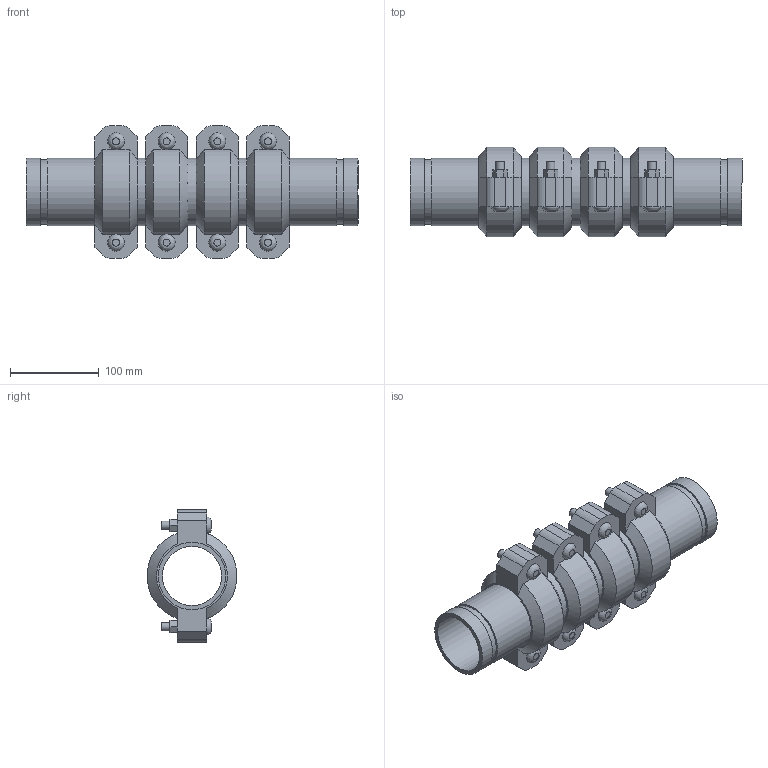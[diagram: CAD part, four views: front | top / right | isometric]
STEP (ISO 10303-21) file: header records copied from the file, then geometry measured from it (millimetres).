
FILE_DESCRIPTION(/* description */ ('VIC EXPANSION JOINT 4 COUPLINGS COMPRESSED STYLE 155 (OGS)','CAx-IF Rec.Pracs.---Representation and Presentation of Product Manufacturing Information (PMI)---4.0---2014-10-13'),/* implementation_level */ '2;1');
FILE_NAME(/* name */ 'C:\Users\kkamble\AppData\Roaming\Autodesk\ApplicationPlugins\Victaulic.Temp\A318\Victaulic_IPS_Expansion Joint_Compressed_4 Couplings_Style 155 (OGS)_02.5 (76.1) (65).stp',/* time_stamp */ '2021-06-27T00:27:26+02:00',/* author */ ('kkamble'),/* organization */ ('Victaulic'),/* preprocessor_version */ 'ST-DEVELOPER v17.2',/* originating_system */ 'Autodesk Inventor 2019',/* authorisation */ '');
FILE_SCHEMA (('AP242_MANAGED_MODEL_BASED_3D_ENGINEERING_MIM_LF { 1 0 10303 442 1 1 4 }'));
Length unit declared in the file: inch
Products named in the file (4): 155-02.5 (76.1); Nipple-02.5 (76.1); Nipple-02.5 (76.1)_1; 075-02.5 (76.1)
Assembly tree (9 placements, depth 2):
  155-02.5 (76.1)
    Nipple-02.5 (76.1)  x2
    Nipple-02.5 (76.1)_1  x3
    075-02.5 (76.1)  x4
Bounding box: 374.65 x 101.25 x 149.86 mm (x, y, z)
Volume: 1244668.3 mm3; surface area: 362827.4 mm2
Topology: 9 solids, 17 shells, 272 faces, 674 edges, 472 vertices
Faces by surface type: plane 166, cylinder 82, cone 16, bspline 8
Full cylindrical faces by diameter (mm): 9.525 x16, 11.43 x8, 66.65 x5, 72.263 x10, 76.2 x19
Entity records: 2741 total; most frequent: CARTESIAN_POINT 511, DIRECTION 445, ORIENTED_EDGE 382, EDGE_CURVE 191, AXIS2_PLACEMENT_3D 176, VERTEX_POINT 136, EDGE_LOOP 99, LINE 93
